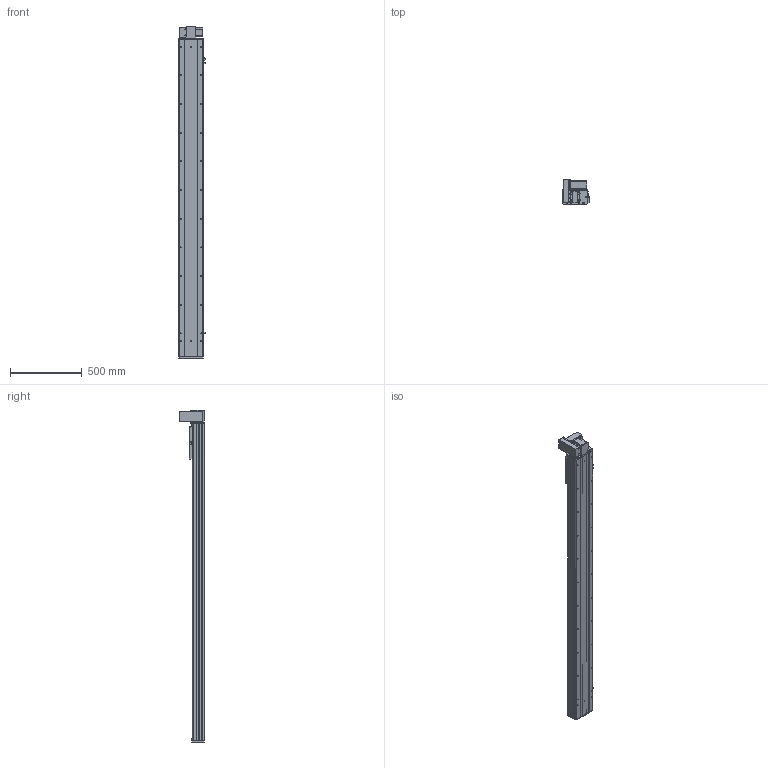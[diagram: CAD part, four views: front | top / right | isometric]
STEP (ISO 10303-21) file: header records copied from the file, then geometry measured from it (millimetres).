
FILE_DESCRIPTION (( 'STEP AP203' ), '1' );
FILE_NAME ('Y170CB-D105-S1900-UL-P400W.STEP', '2020-02-20T02:49:29', ( '微软用户' ), ( '微软中国' ), 'SwSTEP 2.0', 'SolidWorks 2017', '' );
FILE_SCHEMA (( 'CONFIG_CONTROL_DESIGN' ));
Length unit declared in the file: millimetre
Products named in the file (18): 70B喘謫眊----; 70C--詩湍揤踡え-; Y1埴倛裔; 70CB--耜裔; 17B-耜蚾蟀諉啣----; 70C-雄赽釱-奻-; B-源倛裔啣; 00B-俋欶BM--163; 0B-萇儂楊擘啣; Y170CB-D105-S1900-UL-P400W; 0C--雄赽釱俋欶-170; san松下电机400不带刹车----; 70CB-詩湍--; 70CB-掛极-; Y100-135俋离換覜ん--; --70CB --喘謫眊楊擘啣-; Y170CB-陔俋离換覜結え---; 70CB-耜裔啣-
Assembly tree (21 placements, depth 2):
  Y170CB-D105-S1900-UL-P400W
    B-源倛裔啣
    0B-萇儂楊擘啣
    san松下电机400不带刹车----
    70CB-掛极-
    --70CB --喘謫眊楊擘啣-
    70CB-耜裔啣-  x2
    70C--詩湍揤踡え-  x2
    70CB--耜裔
    70C-雄赽釱-奻-
    0C--雄赽釱俋欶-170
    70CB-詩湍--
    Y100-135俋离換覜ん--  x3
    Y170CB-陔俋离換覜結え---
    70B喘謫眊----
    Y1埴倛裔
    17B-耜蚾蟀諉啣----
    00B-俋欶BM--163
Bounding box: 183.5 x 174 x 2316 mm (x, y, z)
Volume: 10082518.5 mm3; surface area: 3634264.2 mm2
Topology: 21 solids, 21 shells, 1047 faces, 2813 edges, 1866 vertices
Faces by surface type: cylinder 561, plane 462, cone 24
Entity records: 33496 total; most frequent: CARTESIAN_POINT 6156, DIRECTION 5450, ORIENTED_EDGE 5108, EDGE_CURVE 2554, AXIS2_PLACEMENT_3D 2008, VERTEX_POINT 1696, LINE 1434, VECTOR 1434
